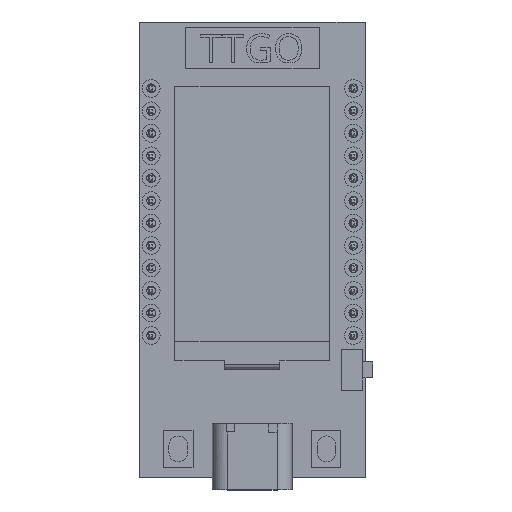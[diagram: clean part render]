
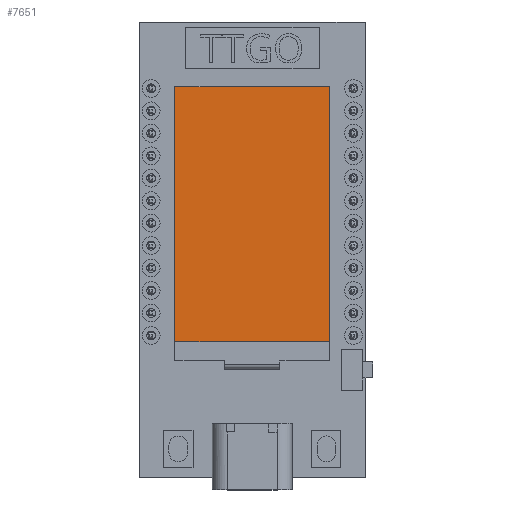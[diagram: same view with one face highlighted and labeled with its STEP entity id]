
A CAD part, top view. The second image highlights one B-rep face of the part: STEP entity #7651.
In plain terms, the highlighted planar face has unit normal (0, 0, 1).
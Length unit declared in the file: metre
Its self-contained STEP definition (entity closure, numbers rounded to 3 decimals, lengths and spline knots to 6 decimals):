
#2266=ORIENTED_EDGE('',*,*,#3413,.T.);
#2267=ORIENTED_EDGE('',*,*,#3415,.T.);
#2268=ORIENTED_EDGE('',*,*,#3419,.T.);
#2269=ORIENTED_EDGE('',*,*,#3422,.F.);
#3413=EDGE_CURVE('',#4157,#4160,#4850,.T.);
#3415=EDGE_CURVE('',#4160,#4161,#4852,.T.);
#3419=EDGE_CURVE('',#4161,#4163,#4856,.T.);
#3422=EDGE_CURVE('',#4157,#4163,#4859,.T.);
#4157=VERTEX_POINT('',#13895);
#4160=VERTEX_POINT('',#13900);
#4161=VERTEX_POINT('',#13904);
#4163=VERTEX_POINT('',#13911);
#4850=LINE('',#13901,#5561);
#4852=LINE('',#13905,#5563);
#4856=LINE('',#13912,#5567);
#4859=LINE('',#13917,#5570);
#5561=VECTOR('',#11585,1.);
#5563=VECTOR('',#11589,1.);
#5567=VECTOR('',#11595,1.);
#5570=VECTOR('',#11600,1.);
#6247=EDGE_LOOP('',(#2266,#2267,#2268,#2269));
#6882=FACE_BOUND('',#6247,.T.);
#7244=PLANE('',#9936);
#7651=ADVANCED_FACE('',(#6882),#7244,.T.);
#9936=AXIS2_PLACEMENT_3D('',#13918,#11601,#11602);
#11585=DIRECTION('',(1.,0.,0.));
#11589=DIRECTION('',(0.,1.,0.));
#11595=DIRECTION('',(-1.,0.,0.));
#11600=DIRECTION('',(0.,1.,0.));
#11601=DIRECTION('',(0.,0.,1.));
#11602=DIRECTION('',(1.,0.,0.));
#13895=CARTESIAN_POINT('',(-0.00875,-0.014677,0.0018));
#13900=CARTESIAN_POINT('',(0.00875,-0.014677,0.0018));
#13901=CARTESIAN_POINT('',(0.,-0.014677,0.0018));
#13904=CARTESIAN_POINT('',(0.00875,0.01417,0.0018));
#13905=CARTESIAN_POINT('',(0.00875,-0.000253,0.0018));
#13911=CARTESIAN_POINT('',(-0.00875,0.01417,0.0018));
#13912=CARTESIAN_POINT('',(0.,0.01417,0.0018));
#13917=CARTESIAN_POINT('',(-0.00875,-0.000253,0.0018));
#13918=CARTESIAN_POINT('',(0.,-0.00498,0.0018));
